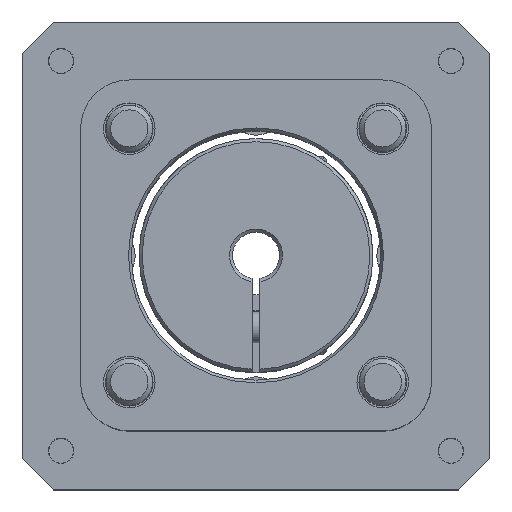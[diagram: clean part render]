
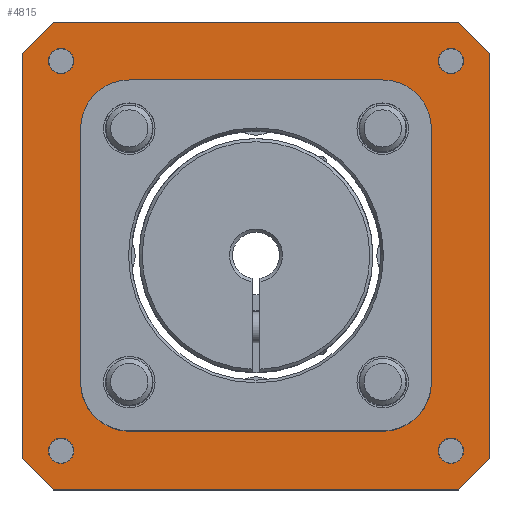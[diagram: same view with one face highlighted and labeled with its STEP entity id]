
A CAD part, top view. The second image highlights one B-rep face of the part: STEP entity #4815.
In plain terms, the highlighted planar face has unit normal (0, 0, 1) as drawn and (0, 0, -1) by its records, which use the part's own axes.
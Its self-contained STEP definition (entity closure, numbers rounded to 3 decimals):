
#393=LINE('',#8534,#701);
#394=LINE('',#8536,#702);
#395=LINE('',#8538,#703);
#396=LINE('',#8540,#704);
#397=LINE('',#8542,#705);
#398=LINE('',#8544,#706);
#399=LINE('',#8546,#707);
#400=LINE('',#8547,#708);
#701=VECTOR('',#6718,5.657);
#702=VECTOR('',#6719,52.);
#703=VECTOR('',#6720,5.657);
#704=VECTOR('',#6721,52.);
#705=VECTOR('',#6722,5.657);
#706=VECTOR('',#6723,52.);
#707=VECTOR('',#6724,5.657);
#708=VECTOR('',#6725,52.);
#880=PLANE('',#5367);
#1043=FACE_BOUND('',#1679,.T.);
#1044=FACE_BOUND('',#1680,.T.);
#1045=FACE_BOUND('',#1681,.T.);
#1046=FACE_BOUND('',#1682,.T.);
#1047=FACE_BOUND('',#1683,.T.);
#1302=FACE_OUTER_BOUND('',#1678,.T.);
#1678=EDGE_LOOP('',(#4254,#4255,#4256,#4257,#4258,#4259,#4260,#4261));
#1679=EDGE_LOOP('',(#4262));
#1680=EDGE_LOOP('',(#4263));
#1681=EDGE_LOOP('',(#4264));
#1682=EDGE_LOOP('',(#4265));
#1683=EDGE_LOOP('',(#4266));
#2014=CIRCLE('',#5364,22.5);
#2016=CIRCLE('',#5368,1.621);
#2017=CIRCLE('',#5369,1.621);
#2018=CIRCLE('',#5370,1.621);
#2019=CIRCLE('',#5371,1.621);
#2458=VERTEX_POINT('',#8526);
#2460=VERTEX_POINT('',#8532);
#2461=VERTEX_POINT('',#8533);
#2462=VERTEX_POINT('',#8535);
#2463=VERTEX_POINT('',#8537);
#2464=VERTEX_POINT('',#8539);
#2465=VERTEX_POINT('',#8541);
#2466=VERTEX_POINT('',#8543);
#2467=VERTEX_POINT('',#8545);
#2468=VERTEX_POINT('',#8548);
#2469=VERTEX_POINT('',#8550);
#2470=VERTEX_POINT('',#8552);
#2471=VERTEX_POINT('',#8554);
#3080=EDGE_CURVE('',#2458,#2458,#2014,.T.);
#3082=EDGE_CURVE('',#2460,#2461,#393,.T.);
#3083=EDGE_CURVE('',#2460,#2462,#394,.T.);
#3084=EDGE_CURVE('',#2463,#2462,#395,.T.);
#3085=EDGE_CURVE('',#2463,#2464,#396,.T.);
#3086=EDGE_CURVE('',#2465,#2464,#397,.T.);
#3087=EDGE_CURVE('',#2465,#2466,#398,.T.);
#3088=EDGE_CURVE('',#2467,#2466,#399,.T.);
#3089=EDGE_CURVE('',#2467,#2461,#400,.T.);
#3090=EDGE_CURVE('',#2468,#2468,#2016,.T.);
#3091=EDGE_CURVE('',#2469,#2469,#2017,.T.);
#3092=EDGE_CURVE('',#2470,#2470,#2018,.T.);
#3093=EDGE_CURVE('',#2471,#2471,#2019,.T.);
#4254=ORIENTED_EDGE('',*,*,#3082,.F.);
#4255=ORIENTED_EDGE('',*,*,#3083,.T.);
#4256=ORIENTED_EDGE('',*,*,#3084,.F.);
#4257=ORIENTED_EDGE('',*,*,#3085,.T.);
#4258=ORIENTED_EDGE('',*,*,#3086,.F.);
#4259=ORIENTED_EDGE('',*,*,#3087,.T.);
#4260=ORIENTED_EDGE('',*,*,#3088,.F.);
#4261=ORIENTED_EDGE('',*,*,#3089,.T.);
#4262=ORIENTED_EDGE('',*,*,#3090,.T.);
#4263=ORIENTED_EDGE('',*,*,#3091,.T.);
#4264=ORIENTED_EDGE('',*,*,#3092,.T.);
#4265=ORIENTED_EDGE('',*,*,#3093,.T.);
#4266=ORIENTED_EDGE('',*,*,#3080,.F.);
#4815=ADVANCED_FACE('',(#1302,#1043,#1044,#1045,#1046,#1047),#880,.F.);
#5364=AXIS2_PLACEMENT_3D('',#8527,#6710,#6711);
#5367=AXIS2_PLACEMENT_3D('',#8531,#6716,#6717);
#5368=AXIS2_PLACEMENT_3D('',#8549,#6726,#6727);
#5369=AXIS2_PLACEMENT_3D('',#8551,#6728,#6729);
#5370=AXIS2_PLACEMENT_3D('',#8553,#6730,#6731);
#5371=AXIS2_PLACEMENT_3D('',#8555,#6732,#6733);
#6710=DIRECTION('center_axis',(0.,0.,-1.));
#6711=DIRECTION('ref_axis',(1.,0.,0.));
#6716=DIRECTION('center_axis',(0.,0.,1.));
#6717=DIRECTION('ref_axis',(1.,0.,0.));
#6718=DIRECTION('',(-0.707,0.707,0.));
#6719=DIRECTION('',(0.,-1.,0.));
#6720=DIRECTION('',(0.707,0.707,0.));
#6721=DIRECTION('',(-1.,0.,0.));
#6722=DIRECTION('',(0.707,-0.707,0.));
#6723=DIRECTION('',(0.,1.,0.));
#6724=DIRECTION('',(-0.707,-0.707,0.));
#6725=DIRECTION('',(1.,0.,0.));
#6726=DIRECTION('center_axis',(0.,0.,1.));
#6727=DIRECTION('ref_axis',(1.,0.,0.));
#6728=DIRECTION('center_axis',(0.,0.,1.));
#6729=DIRECTION('ref_axis',(1.,0.,0.));
#6730=DIRECTION('center_axis',(0.,0.,1.));
#6731=DIRECTION('ref_axis',(1.,0.,0.));
#6732=DIRECTION('center_axis',(0.,0.,1.));
#6733=DIRECTION('ref_axis',(1.,0.,0.));
#8526=CARTESIAN_POINT('',(-22.5,0.,0.));
#8527=CARTESIAN_POINT('Origin',(0.,0.,0.));
#8531=CARTESIAN_POINT('Origin',(0.,0.,
0.));
#8532=CARTESIAN_POINT('',(30.,26.,0.));
#8533=CARTESIAN_POINT('',(26.,30.,0.));
#8534=CARTESIAN_POINT('',(28.,28.,0.));
#8535=CARTESIAN_POINT('',(30.,-26.,0.));
#8536=CARTESIAN_POINT('',(30.,30.,0.));
#8537=CARTESIAN_POINT('',(26.,-30.,0.));
#8538=CARTESIAN_POINT('',(28.,-28.,0.));
#8539=CARTESIAN_POINT('',(-26.,-30.,0.));
#8540=CARTESIAN_POINT('',(30.,-30.,0.));
#8541=CARTESIAN_POINT('',(-30.,-26.,0.));
#8542=CARTESIAN_POINT('',(-28.,-28.,0.));
#8543=CARTESIAN_POINT('',(-30.,26.,0.));
#8544=CARTESIAN_POINT('',(-30.,-30.,0.));
#8545=CARTESIAN_POINT('',(-26.,30.,0.));
#8546=CARTESIAN_POINT('',(-28.,28.,0.));
#8547=CARTESIAN_POINT('',(-30.,30.,0.));
#8548=CARTESIAN_POINT('',(23.379,25.,0.));
#8549=CARTESIAN_POINT('Origin',(25.,25.,0.));
#8550=CARTESIAN_POINT('',(-26.621,25.,0.));
#8551=CARTESIAN_POINT('Origin',(-25.,25.,0.));
#8552=CARTESIAN_POINT('',(-26.621,-25.,0.));
#8553=CARTESIAN_POINT('Origin',(-25.,-25.,0.));
#8554=CARTESIAN_POINT('',(23.379,-25.,0.));
#8555=CARTESIAN_POINT('Origin',(25.,-25.,0.));
